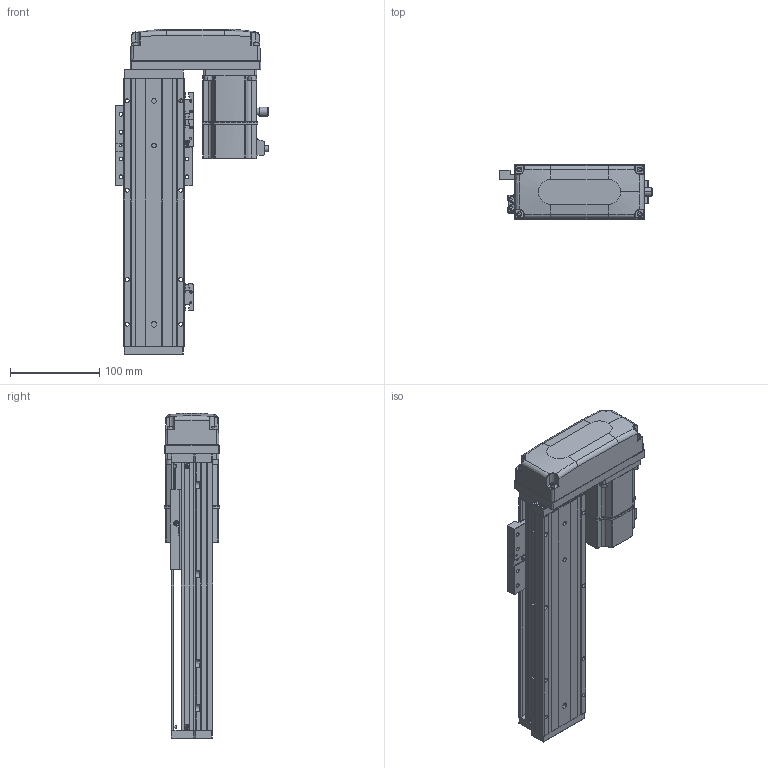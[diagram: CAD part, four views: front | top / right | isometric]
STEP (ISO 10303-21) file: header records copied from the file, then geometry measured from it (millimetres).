
FILE_DESCRIPTION (( 'STEP AP203' ), '1' );
FILE_NAME ('KTHAL60-150-BL-M20-C4L.step', '2022-12-16T02:05:30', ( '微软用户' ), ( '微软中国' ), 'SwSTEP 2.0', 'SolidWorks 2020', '' );
FILE_SCHEMA (( 'CONFIG_CONTROL_DESIGN' ));
Length unit declared in the file: millimetre
Products named in the file (17): GB¨uT 70.2-M3¡Á5_M3¡Á6; GBT 70.1-M3℅6; GBT 70.3-M3℅6; CTHA60-016; EE_SX911P_R; _X2_4E0983F1_X0_200W_1; KTHA60-001_300; CTHA60-017; CTHA60-015-4_CTHA60-015-4; KTHLA60-002; CTHA60-021; GTH80-026; KTHA60-004; GBT 70.1-M4×16; KTHAL60-150-BL-M20-C4L; KTHA60-005; GBT77-2000M3-3
Assembly tree (45 placements, depth 2):
  KTHAL60-150-BL-M20-C4L
    KTHA60-001_300
    KTHLA60-002
    KTHA60-004
    KTHA60-005
    GB¨uT 70.2-M3¡Á5_M3¡Á6  x5
    GBT 70.3-M3℅6  x4
    EE_SX911P_R  x3
    CTHA60-017  x3
    CTHA60-021  x2
    GBT 70.1-M4×16  x8
    GBT77-2000M3-3  x6
    GBT 70.1-M3℅6  x6
    CTHA60-016
    _X2_4E0983F1_X0_200W_1
    CTHA60-015-4_CTHA60-015-4
    GTH80-026
Bounding box: 172.2 x 62.42 x 364 mm (x, y, z)
Volume: 1349796.9 mm3; surface area: 268949.3 mm2
Topology: 48 solids, 48 shells, 2291 faces, 5436 edges, 3337 vertices
Faces by surface type: plane 1223, cylinder 605, cone 264, bspline 103, torus 82, sphere 14
Entity records: 43955 total; most frequent: CARTESIAN_POINT 9930, DIRECTION 6591, ORIENTED_EDGE 6496, EDGE_CURVE 3248, AXIS2_PLACEMENT_3D 2282, VECTOR 2027, LINE 2027, VERTEX_POINT 2021
